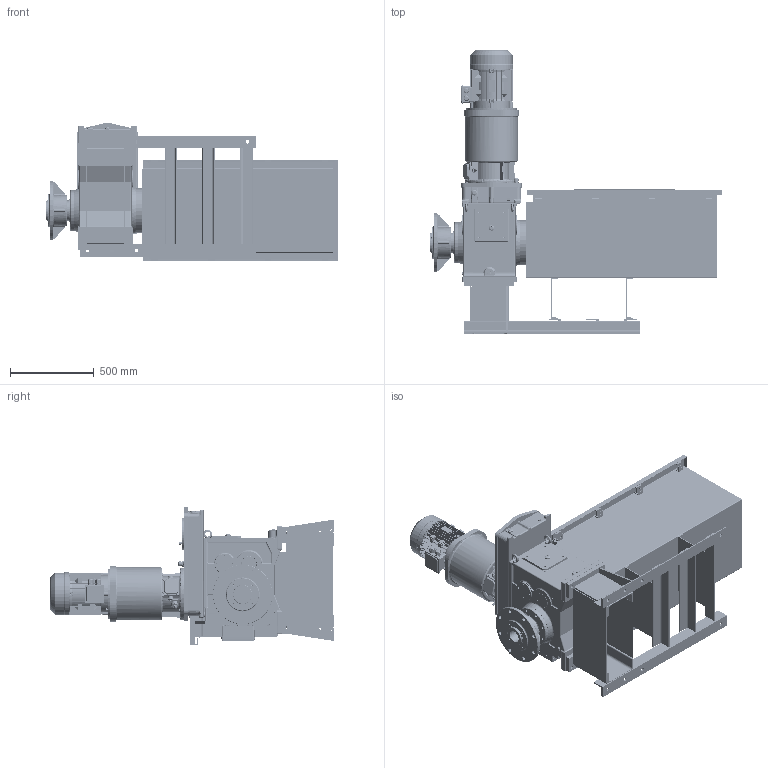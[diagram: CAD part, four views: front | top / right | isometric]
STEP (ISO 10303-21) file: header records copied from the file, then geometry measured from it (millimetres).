
FILE_DESCRIPTION(/* description */ (''),/* implementation_level */ '2;1');
FILE_NAME(/* name */ 'K:\NEMANJA\CABLE REEL\CABLE REEL DA\0700-6\07006002 DAPR-MCGBSR\STEP\75938 .stp',/* time_stamp */ '2017-03-16T12:29:53+01:00',/* author */ ('milman01'),/* organization */ ('Hillmar Industries Ltd.'),/* preprocessor_version */ 'ST-DEVELOPER v16.1',/* originating_system */ 'Autodesk Inventor 2016',/* authorisation */ '');
FILE_SCHEMA (('AUTOMOTIVE_DESIGN { 1 0 10303 214 3 1 1 }'));
Products named in the file (1): 75938 
Bounding box: 1746.25 x 1691.71 x 824.97 mm (x, y, z)
Volume: 81912504.7 mm3; surface area: 16038268.1 mm2
Topology: 16 solids, 16 shells, 7688 faces, 20501 edges, 13134 vertices
Faces by surface type: plane 4157, cylinder 1860, bspline 755, cone 550, torus 284, sphere 82
Full cylindrical faces by diameter (mm): 3 x4, 7 x4, 8 x3, 8.376 x16, 8.731 x1, 10 x35, 10.106 x65, 10.38 x3, 11 x20, 11.053 x9, 12 x14, 12.5 x6, 13 x33, 13.2 x3, 13.5 x12, 14 x16, 15 x11, 16.974 x4, 17.2 x9, 17.294 x4, 17.336 x1, 17.475 x1, 18 x7, 18.256 x3, 18.38 x4, 20 x17, 20.5 x4, 21.336 x1, 22 x23, 22.3 x4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
Entity records: 260329 total; most frequent: CARTESIAN_POINT 69349, ORIENTED_EDGE 38698, DIRECTION 35735, EDGE_CURVE 19332, VERTEX_POINT 12753, AXIS2_PLACEMENT_3D 12301, LINE 11133, VECTOR 11133
